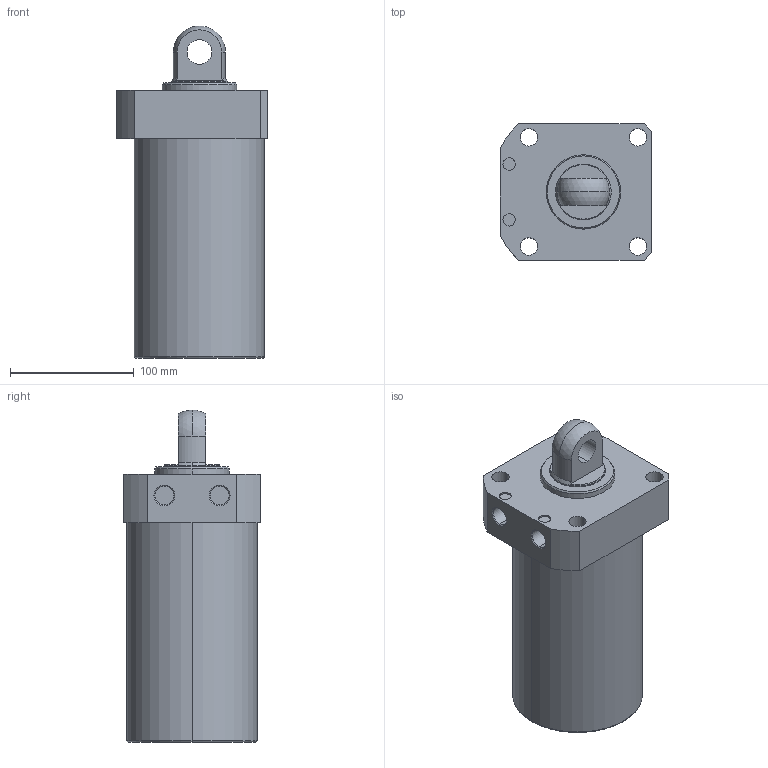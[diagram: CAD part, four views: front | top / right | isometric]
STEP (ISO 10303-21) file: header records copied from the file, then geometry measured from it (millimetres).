
FILE_DESCRIPTION (( 'STEP AP203' ), '1' );
FILE_NAME ('CLLR-105CP-130.STEP', '2019-12-18T08:10:09', ( '' ), ( '' ), 'SwSTEP 2.0', 'SolidWorks 2015', '' );
FILE_SCHEMA (( 'CONFIG_CONTROL_DESIGN' ));
Length unit declared in the file: millimetre
Products named in the file (1): CLLR-105CP-130
Bounding box: 122 x 110 x 268 mm (x, y, z)
Volume: 2058748.8 mm3; surface area: 115913.3 mm2
Topology: 1 solids, 1 shells, 59 faces, 139 edges, 89 vertices
Faces by surface type: cylinder 29, plane 18, cone 8, torus 2, sphere 2
Entity records: 1822 total; most frequent: DIRECTION 331, CARTESIAN_POINT 300, ORIENTED_EDGE 278, EDGE_CURVE 139, AXIS2_PLACEMENT_3D 136, VERTEX_POINT 89, EDGE_LOOP 76, CIRCLE 76
